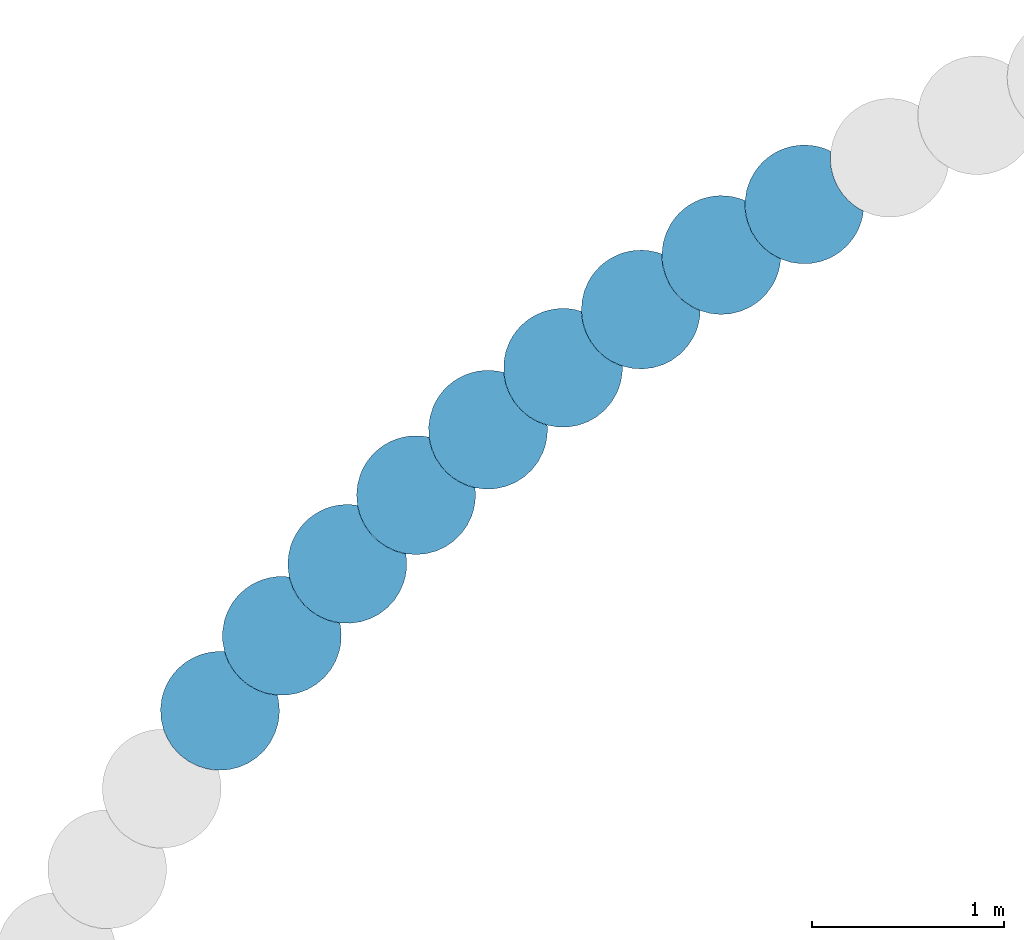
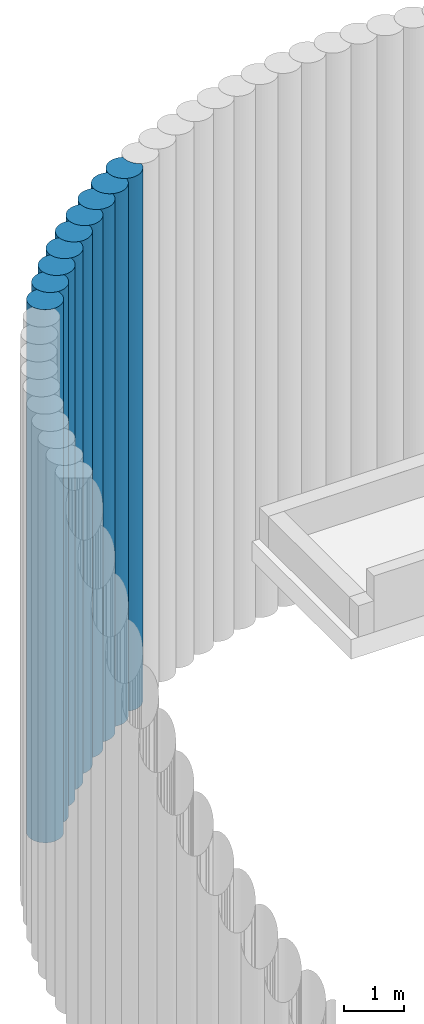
# One storey, part 11 of 16: 9 slabs.
"""IFC2X3 building model written with IfcOpenShell, lengths in centimetres."""

from ifc_helpers import new_model, entity, si_unit, converted_unit, derived_unit, direction, frame, frame_2d, origin, place, context, subcontext, project, spatial, polyline, circle_curve, parameter, trimmed, segment, composite_curve, outline, extrude, material, element, save


model = new_model("IFC2X3")

# Units and contexts
model_context = context("Model", 3, precision=0.001, world=origin(), true_north=direction((6.12303176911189e-17, 1.0)))
body_context = subcontext(model_context, "Body", "Model", "MODEL_VIEW")
ifc_project = project(units=[si_unit("LENGTHUNIT", "METRE", prefix="CENTI"), si_unit("AREAUNIT", "SQUARE_METRE"), si_unit("VOLUMEUNIT", "CUBIC_METRE"), converted_unit("PLANEANGLEUNIT", "DEGREE", entity("IfcRatioMeasure", 0.0174532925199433), si_unit("PLANEANGLEUNIT", "RADIAN"), dimensions=[0, 0, 0, 0, 0, 0, 0]), si_unit("MASSUNIT", "GRAM", prefix="KILO"), derived_unit("MASSDENSITYUNIT", [(si_unit("MASSUNIT", "GRAM", prefix="KILO"), 1), (si_unit("LENGTHUNIT", "METRE"), -3)]), si_unit("TIMEUNIT", "SECOND"), si_unit("FREQUENCYUNIT", "HERTZ"), si_unit("THERMODYNAMICTEMPERATUREUNIT", "DEGREE_CELSIUS"), derived_unit("THERMALTRANSMITTANCEUNIT", [(si_unit("MASSUNIT", "GRAM", prefix="KILO"), 1), (si_unit("THERMODYNAMICTEMPERATUREUNIT", "KELVIN"), -1), (si_unit("TIMEUNIT", "SECOND"), -3)]), derived_unit("VOLUMETRICFLOWRATEUNIT", [(si_unit("LENGTHUNIT", "METRE"), 3), (si_unit("TIMEUNIT", "SECOND"), -1)]), si_unit("ELECTRICCURRENTUNIT", "AMPERE"), si_unit("ELECTRICVOLTAGEUNIT", "VOLT"), si_unit("POWERUNIT", "WATT"), si_unit("FORCEUNIT", "NEWTON", prefix="KILO"), si_unit("ILLUMINANCEUNIT", "LUX"), si_unit("LUMINOUSFLUXUNIT", "LUMEN"), si_unit("LUMINOUSINTENSITYUNIT", "CANDELA"), derived_unit("USERDEFINED", [(si_unit("MASSUNIT", "GRAM", prefix="KILO"), -1), (si_unit("LENGTHUNIT", "METRE"), -2), (si_unit("TIMEUNIT", "SECOND"), 3), (si_unit("LUMINOUSFLUXUNIT", "LUMEN"), 1)]), derived_unit("LINEARVELOCITYUNIT", [(si_unit("LENGTHUNIT", "METRE"), 1), (si_unit("TIMEUNIT", "SECOND"), -1)]), si_unit("PRESSUREUNIT", "PASCAL"), derived_unit("USERDEFINED", [(si_unit("LENGTHUNIT", "METRE"), -2), (si_unit("MASSUNIT", "GRAM", prefix="KILO"), 1), (si_unit("TIMEUNIT", "SECOND"), -2)])], contexts=[model_context])

# Site, building, storey
site_placement = place(None, origin())
site = spatial("IfcSite", under=ifc_project, at=site_placement, Name="Default", CompositionType="ELEMENT")
building_placement = place(site_placement, origin())
building = spatial("IfcBuilding", under=site, at=building_placement, CompositionType="ELEMENT")
storey_placement = place(building_placement, frame((0.0, 0.0, -984.0)))
storey = spatial("IfcBuildingStorey", under=building, at=storey_placement, Name="Niveau Fond de fosse", CompositionType="ELEMENT", Elevation=-984.000000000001)

# Slabs
ifc_material = material(Name="Maçonnerie - Béton coulé sur place")
slab_1_placement = place(storey_placement, origin())
element("IfcSlab", 1, at=slab_1_placement, inside=storey, material=ifc_material, Name="Pieu béton - JBTP:600mm 2", ObjectType="Pieu béton - JBTP:600mm 2", PredefinedType="BASESLAB", context=body_context, shape_type="SweptSolid", body=[
    extrude(outline(composite_curve([segment(trimmed(circle_curve(frame_2d((1.18354648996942, -14.7318661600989), x_axis=(1.0, 0.0)), 30.9999999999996), [parameter(180.0)], [parameter(207.444291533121)], True, "PARAMETER"), True, "CONTINUOUS"), segment(trimmed(circle_curve(frame_2d((-22.2236636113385, -59.7464676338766), x_axis=(0.998867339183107, -0.0475819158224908)), 30.9999999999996), [parameter(30.1715642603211)], [parameter(100.334884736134)], True, "PARAMETER"), False, "CONTINUOUS"), segment(trimmed(circle_curve(frame_2d((1.18354648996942, -14.7318661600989), x_axis=(1.0, 0.0)), 30.9999999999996), [parameter(277.607612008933)], [parameter(4.07110999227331e-13)], True, "PARAMETER"), True, "CONTINUOUS"), segment(polyline([(32.1835464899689, -14.7318661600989), (31.7068413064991, -9.31628922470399)]), True, "CONTINUOUS"), segment(polyline([(31.7068413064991, -9.31628922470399), (30.292145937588, -4.06934121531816)]), True, "CONTINUOUS"), segment(polyline([(30.292145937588, -4.06934121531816), (27.9815446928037, 0.850722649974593)]), True, "CONTINUOUS"), segment(polyline([(27.9815446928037, 0.850722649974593), (24.8625540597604, 5.275747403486)]), True, "CONTINUOUS"), segment(polyline([(24.8625540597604, 5.275747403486), (21.0196407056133, 9.09100869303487)]), True, "CONTINUOUS"), segment(polyline([(21.0196407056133, 9.09100869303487), (16.5713553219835, 12.1793831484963)]), True, "CONTINUOUS"), segment(polyline([(16.5713553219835, 12.1793831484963), (11.6531207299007, 14.4466878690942)]), True, "CONTINUOUS"), segment(polyline([(11.6531207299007, 14.4466878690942), (6.41465294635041, 15.823583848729)]), True, "CONTINUOUS"), segment(polyline([(6.41465294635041, 15.823583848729), (1.01547753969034, 16.2676782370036)]), True, "CONTINUOUS"), segment(polyline([(1.01547753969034, 16.2676782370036), (-4.38028118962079, 15.7646561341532)]), True, "CONTINUOUS"), segment(polyline([(-4.38028118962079, 15.7646561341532), (-9.56967916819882, 14.3433490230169)]), True, "CONTINUOUS"), segment(polyline([(-9.56967916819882, 14.3433490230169), (-14.4353628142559, 12.0459170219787)]), True, "CONTINUOUS"), segment(polyline([(-14.4353628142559, 12.0459170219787), (-18.8300295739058, 8.94210209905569)]), True, "CONTINUOUS"), segment(polyline([(-18.8300295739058, 8.94210209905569), (-22.6217091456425, 5.12536940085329)]), True, "CONTINUOUS"), segment(polyline([(-22.6217091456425, 5.12536940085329), (-25.6964633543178, 0.710448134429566)]), True, "CONTINUOUS"), segment(polyline([(-25.6964633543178, 0.710448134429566), (-27.9617477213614, -4.17005640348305)]), True, "CONTINUOUS"), segment(polyline([(-27.9617477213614, -4.17005640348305), (-29.3490361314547, -9.36890070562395)]), True, "CONTINUOUS"), segment(polyline([(-29.3490361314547, -9.36890070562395), (-29.8164535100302, -14.7318661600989)]), True, "CONTINUOUS")], self_intersect=False)), frame((-540.231925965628, 910.294018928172, -300.0), z_axis=(0.0, 0.0, 1.0), x_axis=(-0.830113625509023, 0.557594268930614, 0.0)), (0.0, 0.0, 1.0), 1084.0),
])
slab_2_placement = place(storey_placement, origin())
element("IfcSlab", 2, at=slab_2_placement, inside=storey, material=ifc_material, Name="Pieu béton - JBTP:600mm 2", ObjectType="Pieu béton - JBTP:600mm 2", PredefinedType="BASESLAB", context=body_context, shape_type="SweptSolid", body=[
    extrude(outline(composite_curve([segment(trimmed(circle_curve(frame_2d((1.18354648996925, -14.7318661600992), x_axis=(1.0, 0.0)), 30.9999999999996), [parameter(180.0)], [parameter(207.444291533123)], True, "PARAMETER"), True, "CONTINUOUS"), segment(trimmed(circle_curve(frame_2d((-22.223663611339, -59.7464676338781), x_axis=(0.998867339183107, -0.047581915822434)), 30.9999999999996), [parameter(30.1715642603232)], [parameter(100.334884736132)], True, "PARAMETER"), False, "CONTINUOUS"), segment(trimmed(circle_curve(frame_2d((1.18354648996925, -14.7318661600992), x_axis=(1.0, 0.0)), 30.9999999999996), [parameter(277.607612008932)], [parameter(4.07110999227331e-13)], True, "PARAMETER"), True, "CONTINUOUS"), segment(polyline([(32.1835464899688, -14.7318661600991), (31.706841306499, -9.31628922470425)]), True, "CONTINUOUS"), segment(polyline([(31.706841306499, -9.31628922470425), (30.2921459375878, -4.06934121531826)]), True, "CONTINUOUS"), segment(polyline([(30.2921459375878, -4.06934121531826), (27.9815446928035, 0.850722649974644)]), True, "CONTINUOUS"), segment(polyline([(27.9815446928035, 0.850722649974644), (24.86255405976, 5.2757474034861)]), True, "CONTINUOUS"), segment(polyline([(24.86255405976, 5.2757474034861), (21.019640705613, 9.09100869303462)]), True, "CONTINUOUS"), segment(polyline([(21.019640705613, 9.09100869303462), (16.5713553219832, 12.1793831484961)]), True, "CONTINUOUS"), segment(polyline([(16.5713553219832, 12.1793831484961), (11.6531207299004, 14.4466878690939)]), True, "CONTINUOUS"), segment(polyline([(11.6531207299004, 14.4466878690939), (6.41465294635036, 15.8235838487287)]), True, "CONTINUOUS"), segment(polyline([(6.41465294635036, 15.8235838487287), (1.01547753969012, 16.2676782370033)]), True, "CONTINUOUS"), segment(polyline([(1.01547753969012, 16.2676782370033), (-4.38028118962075, 15.764656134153)]), True, "CONTINUOUS"), segment(polyline([(-4.38028118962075, 15.764656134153), (-9.56967916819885, 14.3433490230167)]), True, "CONTINUOUS"), segment(polyline([(-9.56967916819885, 14.3433490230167), (-14.435362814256, 12.0459170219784)]), True, "CONTINUOUS"), segment(polyline([(-14.435362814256, 12.0459170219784), (-18.8300295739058, 8.94210209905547)]), True, "CONTINUOUS"), segment(polyline([(-18.8300295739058, 8.94210209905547), (-22.6217091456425, 5.1253694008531)]), True, "CONTINUOUS"), segment(polyline([(-22.6217091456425, 5.1253694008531), (-25.696463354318, 0.710448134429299)]), True, "CONTINUOUS"), segment(polyline([(-25.696463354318, 0.710448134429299), (-27.9617477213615, -4.1700564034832)]), True, "CONTINUOUS"), segment(polyline([(-27.9617477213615, -4.1700564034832), (-29.3490361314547, -9.36890070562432)]), True, "CONTINUOUS"), segment(polyline([(-29.3490361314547, -9.36890070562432), (-29.8164535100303, -14.7318661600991)]), True, "CONTINUOUS")], self_intersect=False)), frame((-582.93355981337, 883.557694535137, -300.0), z_axis=(0.0, 0.0, 1.0), x_axis=(-0.855704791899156, 0.517464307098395, 0.0)), (0.0, 0.0, 1.0), 1084.0),
])
slab_3_placement = place(storey_placement, origin())
element("IfcSlab", 3, at=slab_3_placement, inside=storey, material=ifc_material, Name="Pieu béton - JBTP:600mm 2", ObjectType="Pieu béton - JBTP:600mm 2", PredefinedType="BASESLAB", context=body_context, shape_type="SweptSolid", body=[
    extrude(outline(composite_curve([segment(trimmed(circle_curve(frame_2d((1.18354648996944, -14.7318661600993), x_axis=(1.0, 0.0)), 30.9999999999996), [parameter(180.0)], [parameter(207.444291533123)], True, "PARAMETER"), True, "CONTINUOUS"), segment(trimmed(circle_curve(frame_2d((-22.2236636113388, -59.7464676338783), x_axis=(0.998867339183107, -0.0475819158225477)), 30.9999999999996), [parameter(30.1715642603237)], [parameter(100.334884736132)], True, "PARAMETER"), False, "CONTINUOUS"), segment(trimmed(circle_curve(frame_2d((1.18354648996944, -14.7318661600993), x_axis=(1.0, 0.0)), 30.9999999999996), [parameter(277.607612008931)], [parameter(4.07110999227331e-13)], True, "PARAMETER"), True, "CONTINUOUS"), segment(polyline([(32.183546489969, -14.7318661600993), (31.7068413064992, -9.31628922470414)]), True, "CONTINUOUS"), segment(polyline([(31.7068413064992, -9.31628922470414), (30.292145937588, -4.06934121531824)]), True, "CONTINUOUS"), segment(polyline([(30.292145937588, -4.06934121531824), (27.9815446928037, 0.850722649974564)]), True, "CONTINUOUS"), segment(polyline([(27.9815446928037, 0.850722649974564), (24.8625540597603, 5.27574740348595)]), True, "CONTINUOUS"), segment(polyline([(24.8625540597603, 5.27574740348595), (21.0196407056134, 9.09100869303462)]), True, "CONTINUOUS"), segment(polyline([(21.0196407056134, 9.09100869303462), (16.5713553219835, 12.179383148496)]), True, "CONTINUOUS"), segment(polyline([(16.5713553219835, 12.179383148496), (11.6531207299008, 14.4466878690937)]), True, "CONTINUOUS"), segment(polyline([(11.6531207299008, 14.4466878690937), (6.41465294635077, 15.8235838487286)]), True, "CONTINUOUS"), segment(polyline([(6.41465294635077, 15.8235838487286), (1.01547753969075, 16.2676782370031)]), True, "CONTINUOUS"), segment(polyline([(1.01547753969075, 16.2676782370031), (-4.38028118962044, 15.7646561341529)]), True, "CONTINUOUS"), segment(polyline([(-4.38028118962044, 15.7646561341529), (-9.56967916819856, 14.3433490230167)]), True, "CONTINUOUS"), segment(polyline([(-9.56967916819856, 14.3433490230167), (-14.4353628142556, 12.0459170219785)]), True, "CONTINUOUS"), segment(polyline([(-14.4353628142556, 12.0459170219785), (-18.8300295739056, 8.94210209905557)]), True, "CONTINUOUS"), segment(polyline([(-18.8300295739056, 8.94210209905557), (-22.6217091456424, 5.12536940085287)]), True, "CONTINUOUS"), segment(polyline([(-22.6217091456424, 5.12536940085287), (-25.6964633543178, 0.71044813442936)]), True, "CONTINUOUS"), segment(polyline([(-25.6964633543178, 0.71044813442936), (-27.9617477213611, -4.17005640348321)]), True, "CONTINUOUS"), segment(polyline([(-27.9617477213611, -4.17005640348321), (-29.3490361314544, -9.36890070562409)]), True, "CONTINUOUS"), segment(polyline([(-29.3490361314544, -9.36890070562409), (-29.8164535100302, -14.7318661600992)]), True, "CONTINUOUS")], self_intersect=False)), frame((-624.314661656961, 854.819827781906, -300.0), z_axis=(0.0, 0.0, 1.0), x_axis=(-0.879357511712, 0.476162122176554, 0.0)), (0.0, 0.0, 1.0), 1084.0),
])
slab_4_placement = place(storey_placement, origin())
element("IfcSlab", 4, at=slab_4_placement, inside=storey, material=ifc_material, Name="Pieu béton - JBTP:600mm 2", ObjectType="Pieu béton - JBTP:600mm 2", PredefinedType="BASESLAB", context=body_context, shape_type="SweptSolid", body=[
    extrude(outline(composite_curve([segment(trimmed(circle_curve(frame_2d((1.18354648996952, -14.7318661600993), x_axis=(1.0, 0.0)), 30.9999999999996), [parameter(180.0)], [parameter(207.444291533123)], True, "PARAMETER"), True, "CONTINUOUS"), segment(trimmed(circle_curve(frame_2d((-22.2236636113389, -59.7464676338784), x_axis=(0.998867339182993, -0.0475819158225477)), 30.9999999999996), [parameter(30.1715642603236)], [parameter(100.334884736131)], True, "PARAMETER"), False, "CONTINUOUS"), segment(trimmed(circle_curve(frame_2d((1.18354648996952, -14.7318661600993), x_axis=(1.0, 0.0)), 30.9999999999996), [parameter(277.607612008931)], [parameter(4.07110999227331e-13)], True, "PARAMETER"), True, "CONTINUOUS"), segment(polyline([(32.183546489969, -14.7318661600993), (31.7068413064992, -9.31628922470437)]), True, "CONTINUOUS"), segment(polyline([(31.7068413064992, -9.31628922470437), (30.2921459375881, -4.06934121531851)]), True, "CONTINUOUS"), segment(polyline([(30.2921459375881, -4.06934121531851), (27.981544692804, 0.850722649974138)]), True, "CONTINUOUS"), segment(polyline([(27.981544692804, 0.850722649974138), (24.8625540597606, 5.27574740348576)]), True, "CONTINUOUS"), segment(polyline([(24.8625540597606, 5.27574740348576), (21.0196407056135, 9.09100869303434)]), True, "CONTINUOUS"), segment(polyline([(21.0196407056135, 9.09100869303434), (16.5713553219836, 12.1793831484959)]), True, "CONTINUOUS"), segment(polyline([(16.5713553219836, 12.1793831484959), (11.6531207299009, 14.4466878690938)]), True, "CONTINUOUS"), segment(polyline([(11.6531207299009, 14.4466878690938), (6.41465294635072, 15.8235838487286)]), True, "CONTINUOUS"), segment(polyline([(6.41465294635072, 15.8235838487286), (1.01547753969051, 16.2676782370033)]), True, "CONTINUOUS"), segment(polyline([(1.01547753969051, 16.2676782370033), (-4.38028118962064, 15.7646561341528)]), True, "CONTINUOUS"), segment(polyline([(-4.38028118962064, 15.7646561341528), (-9.56967916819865, 14.3433490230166)]), True, "CONTINUOUS"), segment(polyline([(-9.56967916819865, 14.3433490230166), (-14.4353628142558, 12.0459170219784)]), True, "CONTINUOUS"), segment(polyline([(-14.4353628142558, 12.0459170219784), (-18.8300295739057, 8.94210209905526)]), True, "CONTINUOUS"), segment(polyline([(-18.8300295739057, 8.94210209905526), (-22.6217091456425, 5.1253694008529)]), True, "CONTINUOUS"), segment(polyline([(-22.6217091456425, 5.1253694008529), (-25.6964633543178, 0.71044813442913)]), True, "CONTINUOUS"), segment(polyline([(-25.6964633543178, 0.71044813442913), (-27.9617477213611, -4.17005640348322)]), True, "CONTINUOUS"), segment(polyline([(-27.9617477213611, -4.17005640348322), (-29.3490361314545, -9.36890070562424)]), True, "CONTINUOUS"), segment(polyline([(-29.3490361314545, -9.36890070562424), (-29.8164535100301, -14.7318661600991)]), True, "CONTINUOUS")], self_intersect=False)), frame((-664.281489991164, 824.145519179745, -300.0), z_axis=(0.0, 0.0, 1.0), x_axis=(-0.901018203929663, 0.43378127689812, 0.0)), (0.0, 0.0, 1.0), 1084.0),
])
slab_5_placement = place(storey_placement, origin())
element("IfcSlab", 5, at=slab_5_placement, inside=storey, material=ifc_material, Name="Pieu béton - JBTP:600mm 2", ObjectType="Pieu béton - JBTP:600mm 2", PredefinedType="BASESLAB", context=body_context, shape_type="SweptSolid", body=[
    extrude(outline(composite_curve([segment(trimmed(circle_curve(frame_2d((1.18354648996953, -14.7318661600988), x_axis=(1.0, 0.0)), 30.9999999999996), [parameter(180.0)], [parameter(207.444291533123)], True, "PARAMETER"), True, "CONTINUOUS"), segment(trimmed(circle_curve(frame_2d((-22.2236636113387, -59.7464676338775), x_axis=(0.998867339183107, -0.047581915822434)), 30.9999999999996), [parameter(30.1715642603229)], [parameter(100.334884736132)], True, "PARAMETER"), False, "CONTINUOUS"), segment(trimmed(circle_curve(frame_2d((1.18354648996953, -14.7318661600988), x_axis=(1.0, 0.0)), 30.9999999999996), [parameter(277.607612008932)], [parameter(4.07110999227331e-13)], True, "PARAMETER"), True, "CONTINUOUS"), segment(polyline([(32.183546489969, -14.7318661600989), (31.7068413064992, -9.31628922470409)]), True, "CONTINUOUS"), segment(polyline([(31.7068413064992, -9.31628922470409), (30.2921459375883, -4.06934121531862)]), True, "CONTINUOUS"), segment(polyline([(30.2921459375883, -4.06934121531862), (27.9815446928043, 0.850722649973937)]), True, "CONTINUOUS"), segment(polyline([(27.9815446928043, 0.850722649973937), (24.862554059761, 5.27574740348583)]), True, "CONTINUOUS"), segment(polyline([(24.862554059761, 5.27574740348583), (21.0196407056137, 9.09100869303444)]), True, "CONTINUOUS"), segment(polyline([(21.0196407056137, 9.09100869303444), (16.5713553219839, 12.1793831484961)]), True, "CONTINUOUS"), segment(polyline([(16.5713553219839, 12.1793831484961), (11.6531207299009, 14.4466878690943)]), True, "CONTINUOUS"), segment(polyline([(11.6531207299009, 14.4466878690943), (6.41465294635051, 15.8235838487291)]), True, "CONTINUOUS"), segment(polyline([(6.41465294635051, 15.8235838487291), (1.01547753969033, 16.2676782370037)]), True, "CONTINUOUS"), segment(polyline([(1.01547753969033, 16.2676782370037), (-4.38028118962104, 15.7646561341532)]), True, "CONTINUOUS"), segment(polyline([(-4.38028118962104, 15.7646561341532), (-9.56967916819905, 14.3433490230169)]), True, "CONTINUOUS"), segment(polyline([(-9.56967916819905, 14.3433490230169), (-14.4353628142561, 12.0459170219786)]), True, "CONTINUOUS"), segment(polyline([(-14.4353628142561, 12.0459170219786), (-18.8300295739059, 8.94210209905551)]), True, "CONTINUOUS"), segment(polyline([(-18.8300295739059, 8.94210209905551), (-22.6217091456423, 5.12536940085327)]), True, "CONTINUOUS"), segment(polyline([(-22.6217091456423, 5.12536940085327), (-25.6964633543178, 0.71044813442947)]), True, "CONTINUOUS"), segment(polyline([(-25.6964633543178, 0.71044813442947), (-27.9617477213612, -4.17005640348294)]), True, "CONTINUOUS"), segment(polyline([(-27.9617477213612, -4.17005640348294), (-29.3490361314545, -9.36890070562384)]), True, "CONTINUOUS"), segment(polyline([(-29.3490361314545, -9.36890070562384), (-29.8164535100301, -14.7318661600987)]), True, "CONTINUOUS")], self_intersect=False)), frame((-702.743507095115, 791.604255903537, -300.0), z_axis=(0.0, 0.0, 1.0), x_axis=(-0.92063780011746, 0.390417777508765, 0.0)), (0.0, 0.0, 1.0), 1084.0),
])
slab_6_placement = place(storey_placement, origin())
element("IfcSlab", 6, at=slab_6_placement, inside=storey, material=ifc_material, Name="Pieu béton - JBTP:600mm 2", ObjectType="Pieu béton - JBTP:600mm 2", PredefinedType="BASESLAB", context=body_context, shape_type="SweptSolid", body=[
    extrude(outline(composite_curve([segment(trimmed(circle_curve(frame_2d((1.18354648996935, -14.7318661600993), x_axis=(1.0, 0.0)), 30.9999999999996), [parameter(180.0)], [parameter(207.444291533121)], True, "PARAMETER"), True, "CONTINUOUS"), segment(trimmed(circle_curve(frame_2d((-22.2236636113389, -59.7464676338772), x_axis=(0.998867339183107, -0.047581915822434)), 30.9999999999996), [parameter(30.1715642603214)], [parameter(100.334884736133)], True, "PARAMETER"), False, "CONTINUOUS"), segment(trimmed(circle_curve(frame_2d((1.18354648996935, -14.7318661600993), x_axis=(1.0, 0.0)), 30.9999999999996), [parameter(277.607612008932)], [parameter(4.07110999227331e-13)], True, "PARAMETER"), True, "CONTINUOUS"), segment(polyline([(32.1835464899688, -14.7318661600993), (31.706841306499, -9.31628922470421)]), True, "CONTINUOUS"), segment(polyline([(31.706841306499, -9.31628922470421), (30.2921459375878, -4.06934121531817)]), True, "CONTINUOUS"), segment(polyline([(30.2921459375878, -4.06934121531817), (27.9815446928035, 0.850722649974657)]), True, "CONTINUOUS"), segment(polyline([(27.9815446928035, 0.850722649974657), (24.8625540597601, 5.27574740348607)]), True, "CONTINUOUS"), segment(polyline([(24.8625540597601, 5.27574740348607), (21.0196407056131, 9.09100869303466)]), True, "CONTINUOUS"), segment(polyline([(21.0196407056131, 9.09100869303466), (16.5713553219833, 12.179383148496)]), True, "CONTINUOUS"), segment(polyline([(16.5713553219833, 12.179383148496), (11.6531207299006, 14.4466878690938)]), True, "CONTINUOUS"), segment(polyline([(11.6531207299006, 14.4466878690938), (6.41465294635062, 15.8235838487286)]), True, "CONTINUOUS"), segment(polyline([(6.41465294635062, 15.8235838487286), (1.01547753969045, 16.2676782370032)]), True, "CONTINUOUS"), segment(polyline([(1.01547753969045, 16.2676782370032), (-4.38028118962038, 15.7646561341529)]), True, "CONTINUOUS"), segment(polyline([(-4.38028118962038, 15.7646561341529), (-9.5696791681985, 14.3433490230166)]), True, "CONTINUOUS"), segment(polyline([(-9.5696791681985, 14.3433490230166), (-14.4353628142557, 12.0459170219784)]), True, "CONTINUOUS"), segment(polyline([(-14.4353628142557, 12.0459170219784), (-18.8300295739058, 8.94210209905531)]), True, "CONTINUOUS"), segment(polyline([(-18.8300295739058, 8.94210209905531), (-22.6217091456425, 5.12536940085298)]), True, "CONTINUOUS"), segment(polyline([(-22.6217091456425, 5.12536940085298), (-25.6964633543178, 0.710448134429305)]), True, "CONTINUOUS"), segment(polyline([(-25.6964633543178, 0.710448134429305), (-27.9617477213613, -4.17005640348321)]), True, "CONTINUOUS"), segment(polyline([(-27.9617477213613, -4.17005640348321), (-29.3490361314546, -9.36890070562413)]), True, "CONTINUOUS"), segment(polyline([(-29.3490361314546, -9.36890070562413), (-29.8164535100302, -14.7318661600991)]), True, "CONTINUOUS")], self_intersect=False)), frame((-739.613584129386, 757.269754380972, -300.0), z_axis=(0.0, 0.0, 1.0), x_axis=(-0.938171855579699, 0.346169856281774, 0.0)), (0.0, 0.0, 1.0), 1084.0),
])
slab_7_placement = place(storey_placement, origin())
element("IfcSlab", 7, at=slab_7_placement, inside=storey, material=ifc_material, Name="Pieu béton - JBTP:600mm 2", ObjectType="Pieu béton - JBTP:600mm 2", PredefinedType="BASESLAB", context=body_context, shape_type="SweptSolid", body=[
    extrude(outline(composite_curve([segment(trimmed(circle_curve(frame_2d((1.18354648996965, -14.731866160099), x_axis=(1.0, 0.0)), 30.9999999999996), [parameter(180.0)], [parameter(207.444291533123)], True, "PARAMETER"), True, "CONTINUOUS"), segment(trimmed(circle_curve(frame_2d((-22.2236636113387, -59.7464676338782), x_axis=(0.998867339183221, -0.0475819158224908)), 30.9999999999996), [parameter(30.1715642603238)], [parameter(100.334884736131)], True, "PARAMETER"), False, "CONTINUOUS"), segment(trimmed(circle_curve(frame_2d((1.18354648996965, -14.731866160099), x_axis=(1.0, 0.0)), 30.9999999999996), [parameter(277.607612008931)], [parameter(4.07110999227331e-13)], True, "PARAMETER"), True, "CONTINUOUS"), segment(polyline([(32.1835464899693, -14.731866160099), (31.7068413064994, -9.31628922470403)]), True, "CONTINUOUS"), segment(polyline([(31.7068413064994, -9.31628922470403), (30.2921459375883, -4.06934121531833)]), True, "CONTINUOUS"), segment(polyline([(30.2921459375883, -4.06934121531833), (27.9815446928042, 0.850722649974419)]), True, "CONTINUOUS"), segment(polyline([(27.9815446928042, 0.850722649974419), (24.8625540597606, 5.27574740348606)]), True, "CONTINUOUS"), segment(polyline([(24.8625540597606, 5.27574740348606), (21.0196407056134, 9.09100869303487)]), True, "CONTINUOUS"), segment(polyline([(21.0196407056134, 9.09100869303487), (16.5713553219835, 12.1793831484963)]), True, "CONTINUOUS"), segment(polyline([(16.5713553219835, 12.1793831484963), (11.6531207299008, 14.4466878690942)]), True, "CONTINUOUS"), segment(polyline([(11.6531207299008, 14.4466878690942), (6.41465294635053, 15.823583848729)]), True, "CONTINUOUS"), segment(polyline([(6.41465294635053, 15.823583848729), (1.01547753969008, 16.2676782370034)]), True, "CONTINUOUS"), segment(polyline([(1.01547753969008, 16.2676782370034), (-4.38028118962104, 15.7646561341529)]), True, "CONTINUOUS"), segment(polyline([(-4.38028118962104, 15.7646561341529), (-9.56967916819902, 14.3433490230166)]), True, "CONTINUOUS"), segment(polyline([(-9.56967916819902, 14.3433490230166), (-14.435362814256, 12.0459170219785)]), True, "CONTINUOUS"), segment(polyline([(-14.435362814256, 12.0459170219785), (-18.8300295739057, 8.94210209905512)]), True, "CONTINUOUS"), segment(polyline([(-18.8300295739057, 8.94210209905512), (-22.6217091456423, 5.12536940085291)]), True, "CONTINUOUS"), segment(polyline([(-22.6217091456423, 5.12536940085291), (-25.6964633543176, 0.710448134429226)]), True, "CONTINUOUS"), segment(polyline([(-25.6964633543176, 0.710448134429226), (-27.9617477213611, -4.17005640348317)]), True, "CONTINUOUS"), segment(polyline([(-27.9617477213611, -4.17005640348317), (-29.3490361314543, -9.36890070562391)]), True, "CONTINUOUS"), segment(polyline([(-29.3490361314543, -9.36890070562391), (-29.8164535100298, -14.731866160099)]), True, "CONTINUOUS")], self_intersect=False)), frame((-774.808198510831, 721.219793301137, -300.0), z_axis=(0.0, 0.0, 1.0), x_axis=(-0.953580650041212, 0.301137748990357, 0.0)), (0.0, 0.0, 1.0), 1084.0),
])
slab_8_placement = place(storey_placement, origin())
element("IfcSlab", 8, at=slab_8_placement, inside=storey, material=ifc_material, Name="Pieu béton - JBTP:600mm 2", ObjectType="Pieu béton - JBTP:600mm 2", PredefinedType="BASESLAB", context=body_context, shape_type="SweptSolid", body=[
    extrude(outline(composite_curve([segment(trimmed(circle_curve(frame_2d((1.18354648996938, -14.731866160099), x_axis=(1.0, 0.0)), 30.9999999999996), [parameter(180.0)], [parameter(207.444291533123)], True, "PARAMETER"), True, "CONTINUOUS"), segment(trimmed(circle_curve(frame_2d((-22.2236636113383, -59.7464676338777), x_axis=(0.998867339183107, -0.0475819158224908)), 30.9999999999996), [parameter(30.1715642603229)], [parameter(100.334884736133)], True, "PARAMETER"), False, "CONTINUOUS"), segment(trimmed(circle_curve(frame_2d((1.18354648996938, -14.731866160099), x_axis=(1.0, 0.0)), 30.9999999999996), [parameter(277.607612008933)], [parameter(4.07110999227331e-13)], True, "PARAMETER"), True, "CONTINUOUS"), segment(polyline([(32.1835464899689, -14.7318661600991), (31.7068413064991, -9.31628922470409)]), True, "CONTINUOUS"), segment(polyline([(31.7068413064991, -9.31628922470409), (30.2921459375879, -4.06934121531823)]), True, "CONTINUOUS"), segment(polyline([(30.2921459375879, -4.06934121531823), (27.9815446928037, 0.850722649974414)]), True, "CONTINUOUS"), segment(polyline([(27.9815446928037, 0.850722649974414), (24.8625540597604, 5.27574740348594)]), True, "CONTINUOUS"), segment(polyline([(24.8625540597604, 5.27574740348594), (21.0196407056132, 9.09100869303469)]), True, "CONTINUOUS"), segment(polyline([(21.0196407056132, 9.09100869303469), (16.5713553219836, 12.1793831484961)]), True, "CONTINUOUS"), segment(polyline([(16.5713553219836, 12.1793831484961), (11.6531207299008, 14.446687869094)]), True, "CONTINUOUS"), segment(polyline([(11.6531207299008, 14.446687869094), (6.41465294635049, 15.8235838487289)]), True, "CONTINUOUS"), segment(polyline([(6.41465294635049, 15.8235838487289), (1.0154775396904, 16.2676782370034)]), True, "CONTINUOUS"), segment(polyline([(1.0154775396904, 16.2676782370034), (-4.38028118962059, 15.764656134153)]), True, "CONTINUOUS"), segment(polyline([(-4.38028118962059, 15.764656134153), (-9.56967916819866, 14.3433490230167)]), True, "CONTINUOUS"), segment(polyline([(-9.56967916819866, 14.3433490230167), (-14.435362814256, 12.0459170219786)]), True, "CONTINUOUS"), segment(polyline([(-14.435362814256, 12.0459170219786), (-18.8300295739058, 8.94210209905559)]), True, "CONTINUOUS"), segment(polyline([(-18.8300295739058, 8.94210209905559), (-22.6217091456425, 5.12536940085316)]), True, "CONTINUOUS"), segment(polyline([(-22.6217091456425, 5.12536940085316), (-25.6964633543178, 0.710448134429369)]), True, "CONTINUOUS"), segment(polyline([(-25.6964633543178, 0.710448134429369), (-27.9617477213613, -4.17005640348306)]), True, "CONTINUOUS"), segment(polyline([(-27.9617477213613, -4.17005640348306), (-29.3490361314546, -9.3689007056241)]), True, "CONTINUOUS"), segment(polyline([(-29.3490361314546, -9.3689007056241), (-29.8164535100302, -14.7318661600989)]), True, "CONTINUOUS")], self_intersect=False)), frame((-808.247623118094, 683.536037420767, -300.0), z_axis=(0.0, 0.0, 1.0), x_axis=(-0.966829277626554, 0.255423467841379, 0.0)), (0.0, 0.0, 1.0), 1084.0),
])
slab_9_placement = place(storey_placement, origin())
element("IfcSlab", 9, at=slab_9_placement, inside=storey, material=ifc_material, Name="Pieu béton - JBTP:600mm 2", ObjectType="Pieu béton - JBTP:600mm 2", PredefinedType="BASESLAB", context=body_context, shape_type="SweptSolid", body=[
    extrude(outline(composite_curve([segment(trimmed(circle_curve(frame_2d((1.18354648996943, -14.7318661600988), x_axis=(1.0, 0.0)), 30.9999999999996), [parameter(180.0)], [parameter(207.444291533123)], True, "PARAMETER"), True, "CONTINUOUS"), segment(trimmed(circle_curve(frame_2d((-22.2236636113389, -59.7464676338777), x_axis=(0.998867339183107, -0.0475819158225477)), 30.9999999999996), [parameter(30.1715642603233)], [parameter(100.334884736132)], True, "PARAMETER"), False, "CONTINUOUS"), segment(trimmed(circle_curve(frame_2d((1.18354648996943, -14.7318661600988), x_axis=(1.0, 0.0)), 30.9999999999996), [parameter(277.607612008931)], [parameter(4.07110999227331e-13)], True, "PARAMETER"), True, "CONTINUOUS"), segment(polyline([(32.183546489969, -14.7318661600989), (31.7068413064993, -9.31628922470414)]), True, "CONTINUOUS"), segment(polyline([(31.7068413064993, -9.31628922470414), (30.2921459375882, -4.06934121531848)]), True, "CONTINUOUS"), segment(polyline([(30.2921459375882, -4.06934121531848), (27.9815446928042, 0.850722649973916)]), True, "CONTINUOUS"), segment(polyline([(27.9815446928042, 0.850722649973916), (24.8625540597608, 5.27574740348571)]), True, "CONTINUOUS"), segment(polyline([(24.8625540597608, 5.27574740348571), (21.0196407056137, 9.09100869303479)]), True, "CONTINUOUS"), segment(polyline([(21.0196407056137, 9.09100869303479), (16.5713553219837, 12.1793831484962)]), True, "CONTINUOUS"), segment(polyline([(16.5713553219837, 12.1793831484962), (11.6531207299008, 14.4466878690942)]), True, "CONTINUOUS"), segment(polyline([(11.6531207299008, 14.4466878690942), (6.4146529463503, 15.8235838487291)]), True, "CONTINUOUS"), segment(polyline([(6.4146529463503, 15.8235838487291), (1.01547753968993, 16.2676782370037)]), True, "CONTINUOUS"), segment(polyline([(1.01547753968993, 16.2676782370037), (-4.38028118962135, 15.7646561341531)]), True, "CONTINUOUS"), segment(polyline([(-4.38028118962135, 15.7646561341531), (-9.56967916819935, 14.3433490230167)]), True, "CONTINUOUS"), segment(polyline([(-9.56967916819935, 14.3433490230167), (-14.4353628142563, 12.0459170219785)]), True, "CONTINUOUS"), segment(polyline([(-14.4353628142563, 12.0459170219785), (-18.830029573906, 8.94210209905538)]), True, "CONTINUOUS"), segment(polyline([(-18.830029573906, 8.94210209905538), (-22.6217091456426, 5.12536940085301)]), True, "CONTINUOUS"), segment(polyline([(-22.6217091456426, 5.12536940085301), (-25.6964633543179, 0.710448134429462)]), True, "CONTINUOUS"), segment(polyline([(-25.6964633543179, 0.710448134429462), (-27.9617477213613, -4.17005640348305)]), True, "CONTINUOUS"), segment(polyline([(-27.9617477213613, -4.17005640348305), (-29.3490361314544, -9.36890070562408)]), True, "CONTINUOUS"), segment(polyline([(-29.3490361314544, -9.36890070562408), (-29.8164535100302, -14.7318661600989)]), True, "CONTINUOUS")], self_intersect=False)), frame((-839.85610689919, 644.303852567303, -300.0), z_axis=(0.0, 0.0, 1.0), x_axis=(-0.977887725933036, 0.209130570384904, 0.0)), (0.0, 0.0, 1.0), 1084.0),
])

save(model, "model.ifc")
